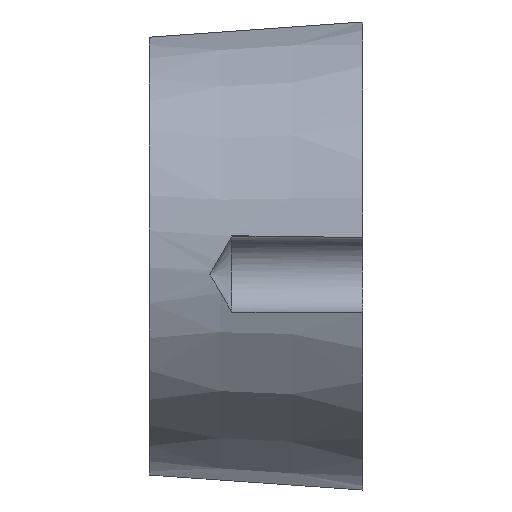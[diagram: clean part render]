
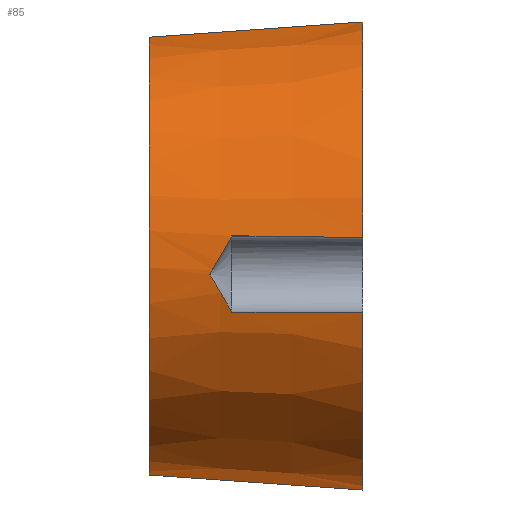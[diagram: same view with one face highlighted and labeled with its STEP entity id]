
A CAD part, top view. The second image highlights one B-rep face of the part: STEP entity #85.
In plain terms, the highlighted conical face has half-angle 4 degrees and reference radius 32.776 mm.
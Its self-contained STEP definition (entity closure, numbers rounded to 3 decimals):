
#85 = ADVANCED_FACE( '', ( #112 ), #113, .T. );
#112 = FACE_OUTER_BOUND( '', #144, .T. );
#113 = CONICAL_SURFACE( '', #145, 32.776, 0.07 );
#144 = EDGE_LOOP( '', ( #244, #245, #246, #247, #248, #249, #250, #251 ) );
#145 = AXIS2_PLACEMENT_3D( '', #252, #253, #254 );
#244 = ORIENTED_EDGE( '', *, *, #327, .F. );
#245 = ORIENTED_EDGE( '', *, *, #314, .F. );
#246 = ORIENTED_EDGE( '', *, *, #290, .F. );
#247 = ORIENTED_EDGE( '', *, *, #322, .T. );
#248 = ORIENTED_EDGE( '', *, *, #297, .T. );
#249 = ORIENTED_EDGE( '', *, *, #316, .F. );
#250 = ORIENTED_EDGE( '', *, *, #328, .F. );
#251 = ORIENTED_EDGE( '', *, *, #289, .F. );
#252 = CARTESIAN_POINT( '', ( -31.8, 0., 0. ) );
#253 = DIRECTION( '', ( 1., 0., 0. ) );
#254 = DIRECTION( '', ( 0., 0., -1. ) );
#289 = EDGE_CURVE( '', #331, #330, #333, .T. );
#290 = EDGE_CURVE( '', #334, #335, #336, .T. );
#297 = EDGE_CURVE( '', #343, #347, #349, .T. );
#314 = EDGE_CURVE( '', #335, #379, #380, .T. );
#316 = EDGE_CURVE( '', #381, #347, #383, .T. );
#322 = EDGE_CURVE( '', #334, #343, #390, .T. );
#327 = EDGE_CURVE( '', #379, #331, #397, .T. );
#328 = EDGE_CURVE( '', #330, #381, #398, .T. );
#330 = VERTEX_POINT( '', #400 );
#331 = VERTEX_POINT( '', #401 );
#333 = B_SPLINE_CURVE_WITH_KNOTS( '', 3, ( #403, #404, #405, #406, #407, #408, #409, #410, #411, #412, #413, #414, #415, #416, #417, #418, #419, #420, #421, #422, #423, #424, #425, #426, #427, #428, #429, #430, #431, #432 ), .UNSPECIFIED., .F., .F., ( 4, 2, 2, 2, 2, 2, 2, 2, 2, 2, 2, 2, 2, 2, 4 ), ( 0., 0.003, 0.005, 0.006, 0.006, 0.006, 0.006, 0.007, 0.007, 0.007, 0.007, 0.007, 0.008, 0.01, 0.013 ), .UNSPECIFIED. );
#334 = VERTEX_POINT( '', #433 );
#335 = VERTEX_POINT( '', #434 );
#336 = B_SPLINE_CURVE_WITH_KNOTS( '', 3, ( #435, #436, #437, #438, #439, #440 ), .UNSPECIFIED., .F., .F., ( 4, 2, 4 ), ( 0., 0.016, 0.032 ), .UNSPECIFIED. );
#343 = VERTEX_POINT( '', #452 );
#347 = VERTEX_POINT( '', #458 );
#349 = B_SPLINE_CURVE_WITH_KNOTS( '', 3, ( #461, #462, #463, #464, #465, #466, #467 ), .UNSPECIFIED., .F., .F., ( 4, 3, 4 ), ( 0.058, 0.062, 0.09 ), .UNSPECIFIED. );
#379 = VERTEX_POINT( '', #508 );
#380 = CIRCLE( '', #509, 35. );
#381 = VERTEX_POINT( '', #510 );
#383 = CIRCLE( '', #512, 35. );
#390 = CIRCLE( '', #521, 32.776 );
#397 = B_SPLINE_CURVE_WITH_KNOTS( '', 3, ( #569, #570, #571, #572 ), .UNSPECIFIED., .F., .F., ( 4, 4 ), ( 0., 0.02 ), .UNSPECIFIED. );
#398 = B_SPLINE_CURVE_WITH_KNOTS( '', 3, ( #573, #574, #575, #576 ), .UNSPECIFIED., .F., .F., ( 4, 4 ), ( 0., 0.02 ), .UNSPECIFIED. );
#400 = CARTESIAN_POINT( '', ( -19.5, -8.548, 32.532 ) );
#401 = CARTESIAN_POINT( '', ( -19.5, 2.791, 33.52 ) );
#403 = CARTESIAN_POINT( '', ( -19.5, 2.791, 33.52 ) );
#404 = CARTESIAN_POINT( '', ( -20.048, 1.841, 33.561 ) );
#405 = CARTESIAN_POINT( '', ( -20.596, 0.889, 33.561 ) );
#406 = CARTESIAN_POINT( '', ( -21.419, -0.536, 33.501 ) );
#407 = CARTESIAN_POINT( '', ( -21.694, -1.01, 33.471 ) );
#408 = CARTESIAN_POINT( '', ( -22.105, -1.721, 33.411 ) );
#409 = CARTESIAN_POINT( '', ( -22.243, -1.957, 33.388 ) );
#410 = CARTESIAN_POINT( '', ( -22.448, -2.312, 33.35 ) );
#411 = CARTESIAN_POINT( '', ( -22.517, -2.43, 33.337 ) );
#412 = CARTESIAN_POINT( '', ( -22.619, -2.608, 33.316 ) );
#413 = CARTESIAN_POINT( '', ( -22.653, -2.667, 33.309 ) );
#414 = CARTESIAN_POINT( '', ( -22.702, -2.757, 33.299 ) );
#415 = CARTESIAN_POINT( '', ( -22.718, -2.787, 33.295 ) );
#416 = CARTESIAN_POINT( '', ( -22.747, -2.849, 33.288 ) );
#417 = CARTESIAN_POINT( '', ( -22.761, -2.882, 33.284 ) );
#418 = CARTESIAN_POINT( '', ( -22.752, -2.95, 33.279 ) );
#419 = CARTESIAN_POINT( '', ( -22.735, -2.98, 33.277 ) );
#420 = CARTESIAN_POINT( '', ( -22.704, -3.041, 33.274 ) );
#421 = CARTESIAN_POINT( '', ( -22.688, -3.071, 33.272 ) );
#422 = CARTESIAN_POINT( '', ( -22.638, -3.161, 33.267 ) );
#423 = CARTESIAN_POINT( '', ( -22.604, -3.22, 33.264 ) );
#424 = CARTESIAN_POINT( '', ( -22.503, -3.398, 33.254 ) );
#425 = CARTESIAN_POINT( '', ( -22.435, -3.516, 33.246 ) );
#426 = CARTESIAN_POINT( '', ( -22.23, -3.87, 33.222 ) );
#427 = CARTESIAN_POINT( '', ( -22.093, -4.106, 33.203 ) );
#428 = CARTESIAN_POINT( '', ( -21.684, -4.813, 33.139 ) );
#429 = CARTESIAN_POINT( '', ( -21.411, -5.283, 33.087 ) );
#430 = CARTESIAN_POINT( '', ( -20.592, -6.69, 32.9 ) );
#431 = CARTESIAN_POINT( '', ( -20.045, -7.623, 32.736 ) );
#432 = CARTESIAN_POINT( '', ( -19.5, -8.548, 32.532 ) );
#433 = CARTESIAN_POINT( '', ( -31.8, 32.464, 4.516 ) );
#434 = CARTESIAN_POINT( '', ( 0., 34.724, 4.387 ) );
#435 = CARTESIAN_POINT( '', ( -31.8, 32.464, 4.516 ) );
#436 = CARTESIAN_POINT( '', ( -26.499, 32.828, 4.586 ) );
#437 = CARTESIAN_POINT( '', ( -21.198, 33.199, 4.613 ) );
#438 = CARTESIAN_POINT( '', ( -10.598, 33.952, 4.575 ) );
#439 = CARTESIAN_POINT( '', ( -5.298, 34.335, 4.51 ) );
#440 = CARTESIAN_POINT( '', ( 0., 34.724, 4.387 ) );
#452 = CARTESIAN_POINT( '', ( -31.8, -32.768, 0.75 ) );
#458 = CARTESIAN_POINT( '', ( 0., -34.992, 0.75 ) );
#461 = CARTESIAN_POINT( '', ( -31.8, -32.768, 0.75 ) );
#462 = CARTESIAN_POINT( '', ( -30.531, -32.856, 0.75 ) );
#463 = CARTESIAN_POINT( '', ( -29.262, -32.945, 0.75 ) );
#464 = CARTESIAN_POINT( '', ( -27.994, -33.034, 0.75 ) );
#465 = CARTESIAN_POINT( '', ( -18.662, -33.687, 0.75 ) );
#466 = CARTESIAN_POINT( '', ( -9.331, -34.339, 0.75 ) );
#467 = CARTESIAN_POINT( '', ( 0., -34.992, 0.75 ) );
#508 = CARTESIAN_POINT( '', ( 0., 2.575, 34.905 ) );
#509 = AXIS2_PLACEMENT_3D( '', #616, #617, #618 );
#510 = CARTESIAN_POINT( '', ( 0., -8.575, 33.933 ) );
#512 = AXIS2_PLACEMENT_3D( '', #622, #623, #624 );
#521 = AXIS2_PLACEMENT_3D( '', #636, #637, #638 );
#569 = CARTESIAN_POINT( '', ( 0., 2.575, 34.905 ) );
#570 = CARTESIAN_POINT( '', ( -6.499, 2.708, 34.44 ) );
#571 = CARTESIAN_POINT( '', ( -12.999, 2.777, 33.978 ) );
#572 = CARTESIAN_POINT( '', ( -19.5, 2.791, 33.52 ) );
#573 = CARTESIAN_POINT( '', ( -19.5, -8.548, 32.532 ) );
#574 = CARTESIAN_POINT( '', ( -12.999, -8.613, 32.985 ) );
#575 = CARTESIAN_POINT( '', ( -6.499, -8.625, 33.452 ) );
#576 = CARTESIAN_POINT( '', ( 0., -8.575, 33.933 ) );
#616 = CARTESIAN_POINT( '', ( 0., 0., 0. ) );
#617 = DIRECTION( '', ( 1., 0., 0. ) );
#618 = DIRECTION( '', ( 0., 0., -1. ) );
#622 = CARTESIAN_POINT( '', ( 0., 0., 0. ) );
#623 = DIRECTION( '', ( 1., 0., 0. ) );
#624 = DIRECTION( '', ( 0., 0., -1. ) );
#636 = CARTESIAN_POINT( '', ( -31.8, 0., 0. ) );
#637 = DIRECTION( '', ( 1., 0., 0. ) );
#638 = DIRECTION( '', ( 0., 0., -1. ) );
